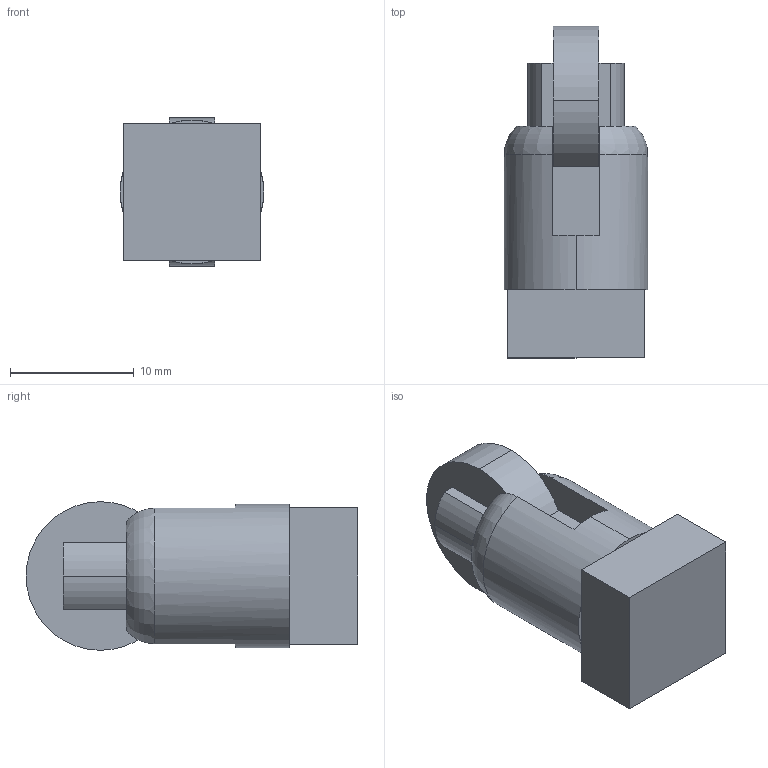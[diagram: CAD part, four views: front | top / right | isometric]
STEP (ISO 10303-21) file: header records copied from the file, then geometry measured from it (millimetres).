
FILE_DESCRIPTION (( 'STEP AP203' ), '1' );
FILE_NAME ('ZF_STEP_VN_AA0BB_A09.step', '2009-06-25T20:03:50', ( 'mario' ), ( '' ), 'SwSTEP 2.0', 'SolidWorks 2009', '' );
FILE_SCHEMA (( 'CONFIG_CONTROL_DESIGN' ));
Length unit declared in the file: millimetre
Products named in the file (3): Pizzato_Rotella_BB; ZF_STEP_VN_AA0BB_A09; Pizzato_Supporto_BB
Assembly tree (2 placements, depth 2):
  ZF_STEP_VN_AA0BB_A09
    Pizzato_Rotella_BB
    Pizzato_Supporto_BB
Bounding box: 11.6 x 26.8 x 12 mm (x, y, z)
Volume: 2087.8 mm3; surface area: 1795 mm2
Topology: 2 solids, 2 shells, 43 faces, 109 edges, 70 vertices
Faces by surface type: plane 31, cylinder 10, torus 2
Entity records: 1626 total; most frequent: CARTESIAN_POINT 263, DIRECTION 235, ORIENTED_EDGE 218, EDGE_CURVE 109, AXIS2_PLACEMENT_3D 82, VECTOR 71, LINE 71, VERTEX_POINT 70
